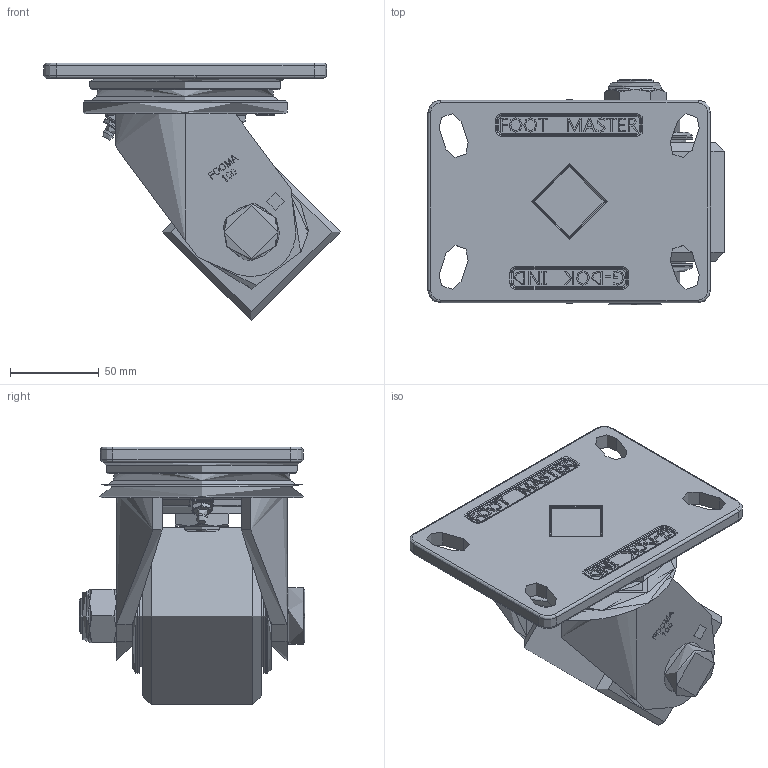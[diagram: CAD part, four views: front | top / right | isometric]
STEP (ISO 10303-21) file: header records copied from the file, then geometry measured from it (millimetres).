
FILE_DESCRIPTION(/* description */ (''),/* implementation_level */ '2;1');
FILE_NAME(/* name */ 'C:\Users\GR-DT-1-010\Desktop\GF-MCD\GF-100-MCD\step파일\GF-100-ASF-MCD.stp',/* time_stamp */ '2019-08-29T18:58:52+09:00',/* author */ ('GR-DT-1-010'),/* organization */ (''),/* preprocessor_version */ 'ST-DEVELOPER v16.13',/* originating_system */ 'Autodesk Inventor 2018',/* authorisation */ '');
FILE_SCHEMA (('AUTOMOTIVE_DESIGN { 1 0 10303 214 3 1 1 }'));
Length unit declared in the file: millimetre
Products named in the file (1): GF-100-ASF-MCD
Bounding box: 166.63 x 127 x 145 mm (x, y, z)
Topology: 1 solids, 9 shells, 1000 faces, 2588 edges, 1650 vertices
Faces by surface type: bspline 401, plane 367, cylinder 105, torus 70, cone 49, sphere 8
Full cylindrical faces by diameter (mm): 6 x1, 10 x2, 20 x4, 30 x1, 32 x1, 57 x2, 59 x1, 64.519 x2, 100 x1, 115 x1
Entity records: 33688 total; most frequent: CARTESIAN_POINT 12207, ORIENTED_EDGE 5030, DIRECTION 3275, EDGE_CURVE 2515, VERTEX_POINT 1634, LINE 1269, VECTOR 1269, EDGE_LOOP 1135
